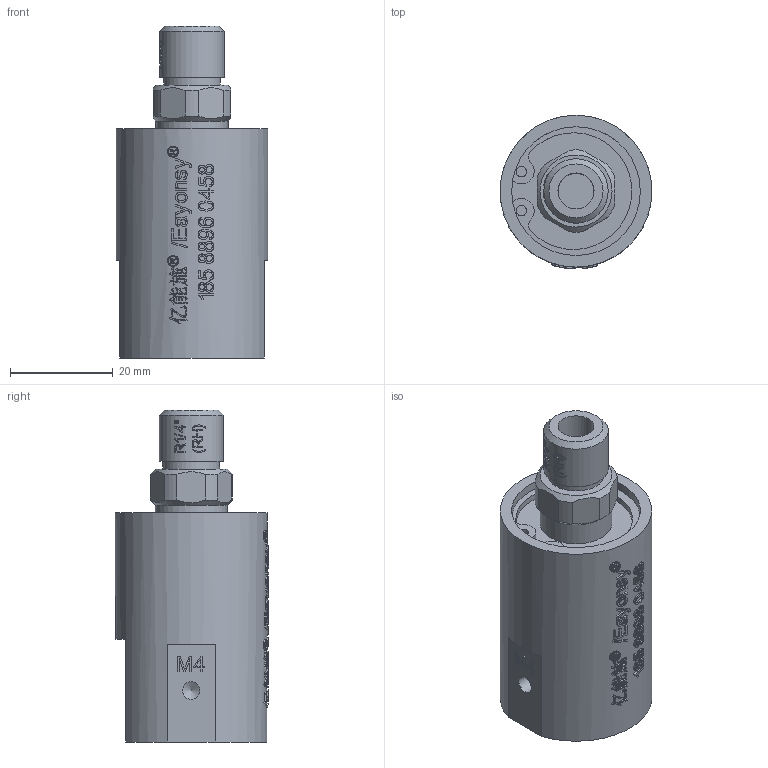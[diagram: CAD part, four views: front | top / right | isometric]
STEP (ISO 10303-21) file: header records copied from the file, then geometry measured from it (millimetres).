
FILE_DESCRIPTION(/* description */ (''),/* implementation_level */ '2;1');
FILE_NAME(/* name */ 'YC0102(RH)-3D模型.stp',/* time_stamp */ '2025-07-05T17:59:01+08:00',/* author */ (''),/* organization */ (''),/* preprocessor_version */ 'ST-DEVELOPER v16.7',/* originating_system */ 'SIEMENS PLM Software NX 12.0',/* authorisation */ '');
FILE_SCHEMA (('AUTOMOTIVE_DESIGN { 1 0 10303 214 3 1 1 1 }'));
Products named in the file (1): Admi0F5C2A87wnhl
Bounding box: 29.5 x 29.8 x 64.5 mm (x, y, z)
Volume: 28390.5 mm3; surface area: 8805 mm2
Topology: 1 solids, 1 shells, 1121 faces, 3097 edges, 2066 vertices
Faces by surface type: extrusion 609, plane 405, bspline 53, cylinder 49, cone 5
Full cylindrical faces by diameter (mm): 2 x2, 3.4 x2, 7 x2, 11 x1, 11.6 x1, 12.5 x1, 14 x1, 25 x1, 26.2 x1, 29.5 x1
Entity records: 46085 total; most frequent: CARTESIAN_POINT 22223, ORIENTED_EDGE 6136, EDGE_CURVE 3068, B_SPLINE_CURVE_WITH_KNOTS 3003, DIRECTION 2441, VERTEX_POINT 2057, EDGE_LOOP 1229, ADVANCED_FACE 1121
